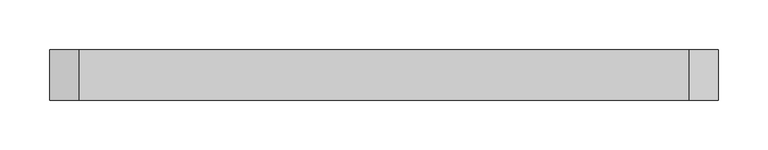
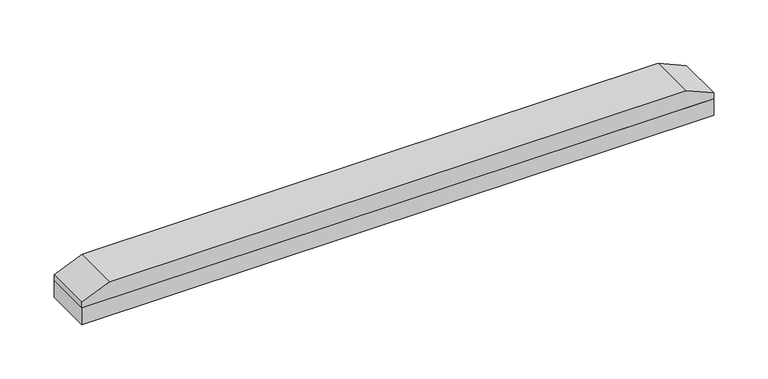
"""IFC4 building model written with IfcOpenShell, lengths in millimetres: proxy geometry, Spinneybeck_ARO Plank 8 : D - 2’-2 1/2” x 2” x 3/4”."""

from ifc_helpers import new_model, si_unit, frame, origin, origin_with_axes, place, context, project, spatial, polyline, outline, extrude, source, transform, mapped, element, save


def specialty_equipment_e09701c8(model_context):
    return source(origin(), model_context, "Body", "SweptSolid", [
        extrude(outline(polyline([(19.05, 336.5), (25.4, 336.5), (38.1, 306.8666667), (38.1, -306.8666667), (25.4, -336.5), (19.05, -336.5), (19.05, 336.5)])), frame((0.0, -25.4, 0.0), z_axis=(0.0, 1.0, 0.0), x_axis=(0.0, 0.0, 1.0)), (0.0, 0.0, 1.0), 50.8),
        extrude(outline(polyline([(-336.5, 25.4), (336.5, 25.4), (336.5, -25.4), (-336.5, -25.4), (-336.5, 25.4)])), origin_with_axes(), (0.0, 0.0, 1.0), 19.05),
    ])


if __name__ == "__main__":
    model = new_model("IFC4")
    model_context = context("Model", 3, world=origin())
    ifc_project = project(units=[si_unit("LENGTHUNIT", "METRE", prefix="MILLI")], contexts=[model_context])
    site = spatial("IfcSite", under=ifc_project)
    building = spatial("IfcBuilding", under=site)
    placement = place(None, origin())
    specialty_equipment_shape = specialty_equipment_e09701c8(model_context)
    element("IfcBuildingElementProxy", 1, Name="Spinneybeck_ARO Plank 8 : D - 2’-2 1/2” x 2” x 3/4”", ObjectType="Spinneybeck_ARO Plank 8 : D - 2’-2 1/2” x 2” x 3/4”", at=placement, inside=building, context=model_context, shape_type="MappedRepresentation", body=[
        mapped(specialty_equipment_shape, transform((0.0, 0.0, 0.0), x_axis=(1.0, 0.0, 0.0), y_axis=(0.0, 1.0, 0.0), z_axis=(0.0, 0.0, 1.0))),
    ])
    save(model, "model.ifc")
